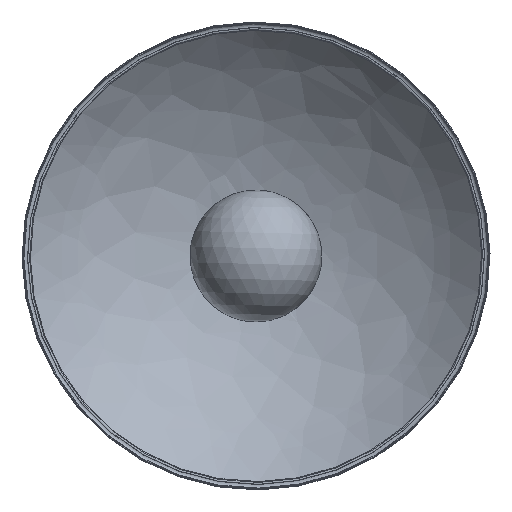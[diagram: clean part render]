
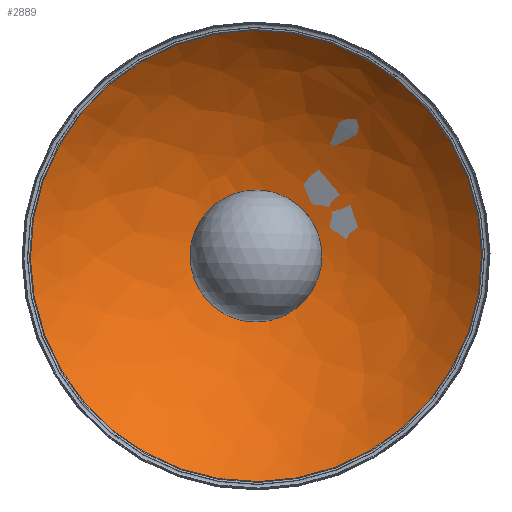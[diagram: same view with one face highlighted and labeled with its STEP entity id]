
A CAD part, front view. The second image highlights one B-rep face of the part: STEP entity #2889.
In plain terms, the highlighted free-form (B-spline) face has degree [2, 2] with [3, 9] control points.
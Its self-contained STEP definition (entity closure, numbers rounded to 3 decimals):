
#1779=(
BOUNDED_SURFACE()
B_SPLINE_SURFACE(2,2,((#5292,#5293,#5294,#5295,#5296,#5297,#5298,#5299,
#5300),(#5301,#5302,#5303,#5304,#5305,#5306,#5307,#5308,#5309),(#5310,#5311,
#5312,#5313,#5314,#5315,#5316,#5317,#5318)),.UNSPECIFIED.,.F.,.T.,.F.)
B_SPLINE_SURFACE_WITH_KNOTS((3,3),(3,2,2,2,3),(-1.542,-0.752),
(-3.142,-1.571,0.,1.571,3.142),
 .UNSPECIFIED.)
GEOMETRIC_REPRESENTATION_ITEM()
RATIONAL_B_SPLINE_SURFACE(((1.,0.707,1.,0.707,1.,
0.707,1.,0.707,1.),(0.923,0.653,
0.923,0.653,0.923,0.653,
0.923,0.653,0.923),(1.,0.707,
1.,0.707,1.,0.707,1.,0.707,1.)))
REPRESENTATION_ITEM('')
SURFACE()
);
#1816=CIRCLE('',#3268,205.393);
#1817=CIRCLE('',#3269,205.393);
#1821=CIRCLE('',#3274,292.742);
#1925=FACE_OUTER_BOUND('',#2009,.T.);
#2009=EDGE_LOOP('',(#2566,#2567,#2568,#2569));
#2223=VERTEX_POINT('',#5282);
#2224=VERTEX_POINT('',#5284);
#2226=VERTEX_POINT('',#5319);
#2352=EDGE_CURVE('',#2224,#2223,#1816,.T.);
#2353=EDGE_CURVE('',#2223,#2224,#1817,.T.);
#2357=EDGE_CURVE('',#2226,#2223,#1821,.T.);
#2566=ORIENTED_EDGE('',*,*,#2357,.T.);
#2567=ORIENTED_EDGE('',*,*,#2353,.T.);
#2568=ORIENTED_EDGE('',*,*,#2352,.T.);
#2569=ORIENTED_EDGE('',*,*,#2357,.F.);
#2889=ADVANCED_FACE('',(#1925),#1779,.T.);
#3268=AXIS2_PLACEMENT_3D('',#5285,#3940,#3941);
#3269=AXIS2_PLACEMENT_3D('',#5286,#3942,#3943);
#3274=AXIS2_PLACEMENT_3D('',#5320,#3952,#3953);
#3940=DIRECTION('center_axis',(0.,-1.,0.));
#3941=DIRECTION('ref_axis',(1.,0.,0.));
#3942=DIRECTION('center_axis',(0.,-1.,0.));
#3943=DIRECTION('ref_axis',(1.,0.,0.));
#3952=DIRECTION('center_axis',(1.,0.,0.));
#3953=DIRECTION('ref_axis',(0.,0.,1.));
#5282=CARTESIAN_POINT('',(0.,6.359,205.393));
#5284=CARTESIAN_POINT('',(205.393,6.359,0.));
#5285=CARTESIAN_POINT('Origin',(0.,6.359,0.));
#5286=CARTESIAN_POINT('Origin',(0.,6.359,0.));
#5292=CARTESIAN_POINT('Ctrl Pts',(0.,99.,0.));
#5293=CARTESIAN_POINT('Ctrl Pts',(0.,99.,
0.));
#5294=CARTESIAN_POINT('Ctrl Pts',(0.,99.,
0.));
#5295=CARTESIAN_POINT('Ctrl Pts',(0.,99.,
0.));
#5296=CARTESIAN_POINT('Ctrl Pts',(0.,99.,0.));
#5297=CARTESIAN_POINT('Ctrl Pts',(0.,99.,
0.));
#5298=CARTESIAN_POINT('Ctrl Pts',(0.,99.,
0.));
#5299=CARTESIAN_POINT('Ctrl Pts',(0.,99.,
0.));
#5300=CARTESIAN_POINT('Ctrl Pts',(0.,99.,0.));
#5301=CARTESIAN_POINT('Ctrl Pts',(0.,95.499,122.01));
#5302=CARTESIAN_POINT('Ctrl Pts',(-122.01,95.499,122.01));
#5303=CARTESIAN_POINT('Ctrl Pts',(-122.01,95.499,0.));
#5304=CARTESIAN_POINT('Ctrl Pts',(-122.01,95.499,-122.01));
#5305=CARTESIAN_POINT('Ctrl Pts',(0.,95.499,-122.01));
#5306=CARTESIAN_POINT('Ctrl Pts',(122.01,95.499,-122.01));
#5307=CARTESIAN_POINT('Ctrl Pts',(122.01,95.499,0.));
#5308=CARTESIAN_POINT('Ctrl Pts',(122.01,95.499,122.01));
#5309=CARTESIAN_POINT('Ctrl Pts',(0.,95.499,122.01));
#5310=CARTESIAN_POINT('Ctrl Pts',(0.,6.359,205.393));
#5311=CARTESIAN_POINT('Ctrl Pts',(-205.393,6.359,205.393));
#5312=CARTESIAN_POINT('Ctrl Pts',(-205.393,6.359,0.));
#5313=CARTESIAN_POINT('Ctrl Pts',(-205.393,6.359,-205.393));
#5314=CARTESIAN_POINT('Ctrl Pts',(0.,6.359,-205.393));
#5315=CARTESIAN_POINT('Ctrl Pts',(205.393,6.359,-205.393));
#5316=CARTESIAN_POINT('Ctrl Pts',(205.393,6.359,0.));
#5317=CARTESIAN_POINT('Ctrl Pts',(205.393,6.359,205.393));
#5318=CARTESIAN_POINT('Ctrl Pts',(0.,6.359,205.393));
#5319=CARTESIAN_POINT('',(0.,99.,0.));
#5320=CARTESIAN_POINT('Origin',(0.,-193.622,
-8.396));
